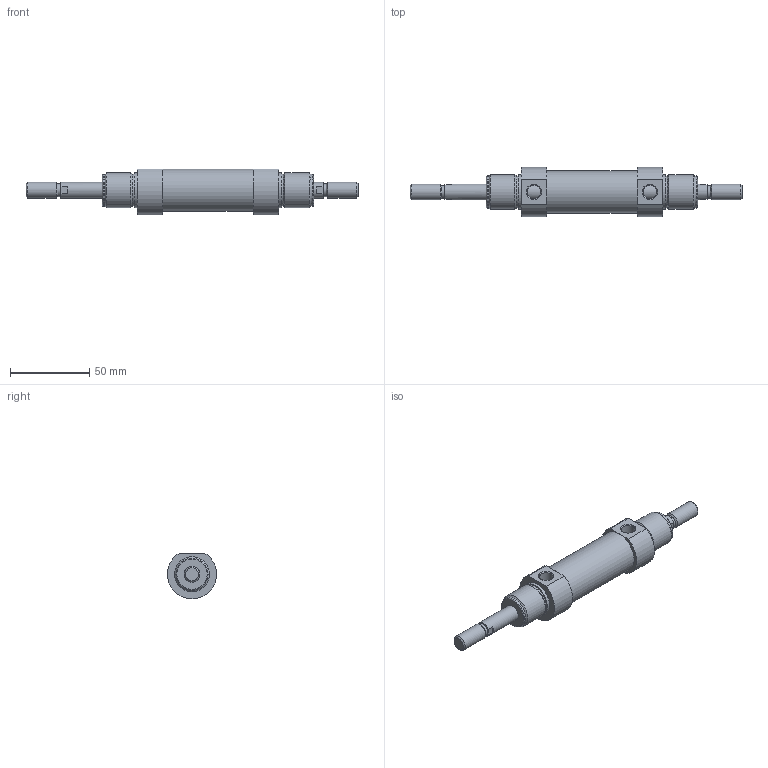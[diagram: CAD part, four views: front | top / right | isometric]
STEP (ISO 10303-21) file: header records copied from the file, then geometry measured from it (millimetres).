
FILE_DESCRIPTION( ( 'STEP AP203' ), '1' );
FILE_NAME( '//expscmdclustefs.cadenas.external/client_exchange/iodir/jobs/output/wkb68469281_no0/STEP/M101-025-0020-M__0__2_03.stp', ' ', ( ' ' ), ( ' ' ), 'PSStep 15.0.47', 'PARTsolutions', ' ' );
FILE_SCHEMA( ( 'CONFIG_CONTROL_DESIGN' ) );
Length unit declared in the file: millimetre
Products named in the file (3): M101-025-0020-M [0]; HI_M101-025-0020-M-[0]-z; HI_M101-025-0020-M-[0]-k
Assembly tree (2 placements, depth 2):
  M101-025-0020-M [0]
    HI_M101-025-0020-M-[0]-z
    HI_M101-025-0020-M-[0]-k
Bounding box: 209 x 31 x 28.79 mm (x, y, z)
Volume: 67855.3 mm3; surface area: 27263.2 mm2
Topology: 2 solids, 2 shells, 63 faces, 123 edges, 74 vertices
Faces by surface type: plane 28, cylinder 23, cone 10, torus 2
Full cylindrical faces by diameter (mm): 8.16 x2, 8.566 x2, 10 x6, 20.16 x4, 22 x4, 25 x2, 26.6 x1
Entity records: 1700 total; most frequent: CARTESIAN_POINT 390, DIRECTION 276, ORIENTED_EDGE 176, AXIS2_PLACEMENT_3D 124, EDGE_LOOP 112, EDGE_CURVE 88, FACE_OUTER_BOUND 86, VERTEX_POINT 72
